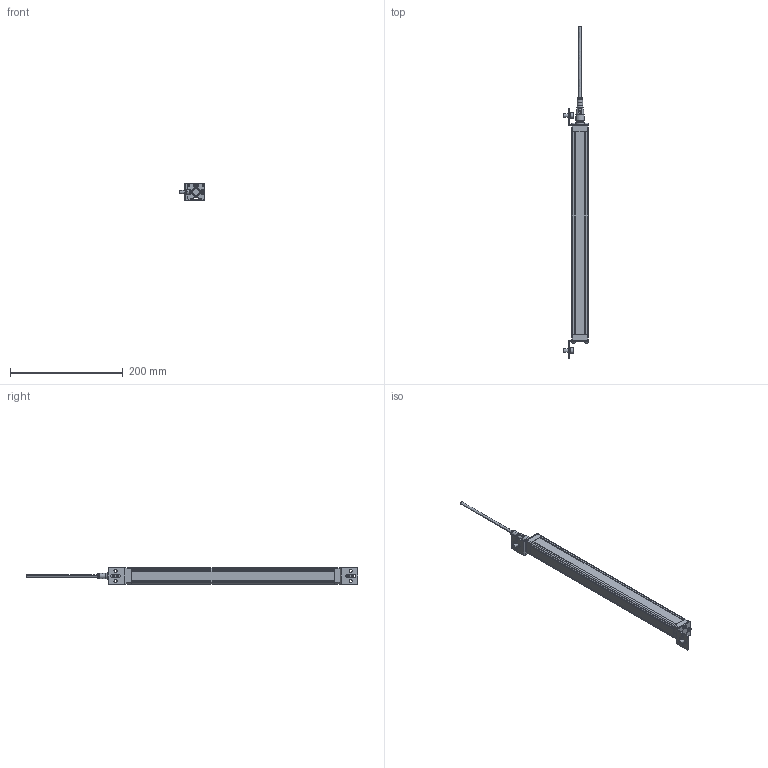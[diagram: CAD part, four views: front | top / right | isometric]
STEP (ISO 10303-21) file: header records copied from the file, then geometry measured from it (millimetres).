
FILE_DESCRIPTION(/* description */ (''),/* implementation_level */ '2;1');
FILE_NAME(/* name */ 'QE36-10-350.prt.stp',/* time_stamp */ '2023-07-18T20:00:39+08:00',/* author */ (''),/* organization */ (''),/* preprocessor_version */ 'ST-DEVELOPER v14',/* originating_system */ 'SIEMENS PLM Software NX 8.0',/* authorisation */ '');
FILE_SCHEMA (('CONFIG_CONTROL_DESIGN'));
Products named in the file (1): QE36-10-350
Bounding box: 44.2 x 588.8 x 30 mm (x, y, z)
Volume: 315306.4 mm3; surface area: 84610.9 mm2
Topology: 25 solids, 25 shells, 615 faces, 1569 edges, 1039 vertices
Faces by surface type: plane 335, cylinder 196, bspline 57, cone 18, sphere 5, torus 4
Full cylindrical faces by diameter (mm): 0.7 x2, 1 x5, 2 x5, 2.2 x8, 3.6 x8, 4 x4, 5.5 x12, 6 x2, 7 x2, 8 x1, 9.04 x1, 9.1 x1, 10 x3, 10.8 x1, 11 x2, 11.85 x1, 11.9 x1, 14.5 x1, 15 x2, 15.2 x2
Entity records: 41715 total; most frequent: CARTESIAN_POINT 27549, ORIENTED_EDGE 2832, DIRECTION 2774, EDGE_CURVE 1416, AXIS2_PLACEMENT_3D 1007, VERTEX_POINT 983, EDGE_LOOP 813, LINE 760
